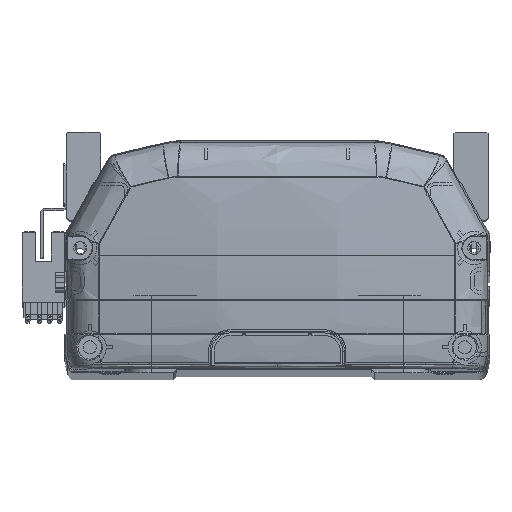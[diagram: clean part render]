
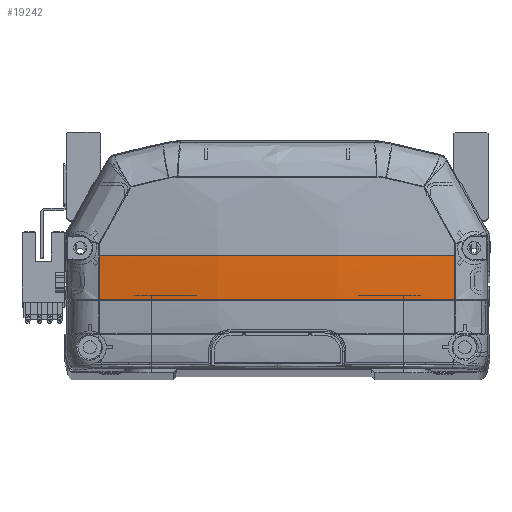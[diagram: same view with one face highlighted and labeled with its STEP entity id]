
A CAD part, top view. The second image highlights one B-rep face of the part: STEP entity #19242.
In plain terms, the highlighted free-form (B-spline) face has degree [3, 3] with [4, 4] control points.
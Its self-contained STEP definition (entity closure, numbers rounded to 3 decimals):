
#96 = CARTESIAN_POINT ( 'NONE',  ( 19.295, 36., -11.535 ) ) ;
#502 = DIRECTION ( 'NONE',  ( 0., 0., -1. ) ) ;
#543 = VERTEX_POINT ( 'NONE', #39598 ) ;
#2409 = AXIS2_PLACEMENT_3D ( 'NONE', #40793, #26597, #22826 ) ;
#2493 = VERTEX_POINT ( 'NONE', #17014 ) ;
#2544 = CARTESIAN_POINT ( 'NONE',  ( 56.661, 22.225, -4.818 ) ) ;
#3341 = CARTESIAN_POINT ( 'NONE',  ( 47.432, 22.225, -6.377 ) ) ;
#3651 = CARTESIAN_POINT ( 'NONE',  ( 19.295, 26.549, -11.419 ) ) ;
#7241 = CARTESIAN_POINT ( 'NONE',  ( 56.661, 22.225, -4.818 ) ) ;
#7395 = CARTESIAN_POINT ( 'NONE',  ( 11.954, 22.225, -9.367 ) ) ;
#7399 = CARTESIAN_POINT ( 'NONE',  ( -19.295, 21.828, -11.186 ) ) ;
#7546 = CARTESIAN_POINT ( 'NONE',  ( 4.761, 22.225, -9.537 ) ) ;
#7550 = CARTESIAN_POINT ( 'NONE',  ( -57.335, 26.762, -4.928 ) ) ;
#8063 = EDGE_CURVE ( 'NONE', #543, #22671, #31457, .T. ) ;
#8841 = CARTESIAN_POINT ( 'NONE',  ( -57.335, 36., -5.042 ) ) ;
#8950 =( BOUNDED_SURFACE ( )  B_SPLINE_SURFACE ( 3, 3, ( 
 ( #15550, #22291, #26379, #33909 ),
 ( #48429, #3651, #29808, #96 ),
 ( #7399, #14916, #18703, #44813 ),
 ( #26214, #7550, #41367, #8841 ) ),
 .UNSPECIFIED., .F., .F., .T. ) 
 B_SPLINE_SURFACE_WITH_KNOTS ( ( 4, 4 ),
 ( 4, 4 ),
 ( 0., 1. ),
 ( 0., 1. ),
 .UNSPECIFIED. ) 
 GEOMETRIC_REPRESENTATION_ITEM ( )  RATIONAL_B_SPLINE_SURFACE ( (
 ( 1., 1., 1., 1.),
 ( 0.99, 0.99, 0.99, 0.99),
 ( 0.99, 0.99, 0.99, 0.99),
 ( 1., 1., 1., 1.) ) ) 
 REPRESENTATION_ITEM ( '' )  SURFACE ( )  );
#10332 = EDGE_CURVE ( 'NONE', #41417, #46457, #18685, .T. ) ;
#10500 = CARTESIAN_POINT ( 'NONE',  ( 23.877, 22.225, -8.763 ) ) ;
#11380 = CARTESIAN_POINT ( 'NONE',  ( 56.647, 36., -5.158 ) ) ;
#12320 = AXIS2_PLACEMENT_3D ( 'NONE', #26797, #30232, #502 ) ;
#14247 = ORIENTED_EDGE ( 'NONE', *, *, #47446, .F. ) ;
#14436 = CARTESIAN_POINT ( 'NONE',  ( -56.661, 22.225, -4.818 ) ) ;
#14916 = CARTESIAN_POINT ( 'NONE',  ( -19.295, 26.549, -11.419 ) ) ;
#15550 = CARTESIAN_POINT ( 'NONE',  ( 57.335, 22.148, -4.7 ) ) ;
#15716 = B_SPLINE_CURVE_WITH_KNOTS ( 'NONE', 3,
 ( #2544, #3341, #18386, #10500, #29490, #7395, #33592, #7546, #25886, #22288, #33270, #18214, #14436 ),
 .UNSPECIFIED., .F., .F.,
 ( 4, 2, 2, 1, 2, 2, 4 ),
 ( 0., 0.25, 0.375, 0.438, 0.469, 0.5, 1. ),
 .UNSPECIFIED. ) ;
#16100 = ORIENTED_EDGE ( 'NONE', *, *, #32959, .F. ) ;
#17014 = CARTESIAN_POINT ( 'NONE',  ( -56.661, 22.225, -4.818 ) ) ;
#17917 = CARTESIAN_POINT ( 'NONE',  ( 56.652, 26.806, -5.044 ) ) ;
#18214 = CARTESIAN_POINT ( 'NONE',  ( -38.235, 22.225, -7.93 ) ) ;
#18386 = CARTESIAN_POINT ( 'NONE',  ( 38.071, 22.225, -7.566 ) ) ;
#18685 = CIRCLE ( 'NONE', #12320, 340.733 ) ;
#18703 = CARTESIAN_POINT ( 'NONE',  ( -19.295, 31.274, -11.535 ) ) ;
#19242 = ADVANCED_FACE ( 'NONE', ( #37970 ), #8950, .T. ) ;
#20765 = CARTESIAN_POINT ( 'NONE',  ( -56.661, 22.225, -4.818 ) ) ;
#22288 = CARTESIAN_POINT ( 'NONE',  ( 1.152, 22.225, -9.568 ) ) ;
#22291 = CARTESIAN_POINT ( 'NONE',  ( 57.335, 26.762, -4.928 ) ) ;
#22671 = VERTEX_POINT ( 'NONE', #47705 ) ;
#22826 = DIRECTION ( 'NONE',  ( -1., 0., 0. ) ) ;
#24366 = CARTESIAN_POINT ( 'NONE',  ( -56.652, 26.814, -5.045 ) ) ;
#25886 = CARTESIAN_POINT ( 'NONE',  ( 2.357, 22.225, -9.562 ) ) ;
#26214 = CARTESIAN_POINT ( 'NONE',  ( -57.335, 22.148, -4.7 ) ) ;
#26379 = CARTESIAN_POINT ( 'NONE',  ( 57.335, 31.38, -5.042 ) ) ;
#26387 = ORIENTED_EDGE ( 'NONE', *, *, #10332, .F. ) ;
#26597 = DIRECTION ( 'NONE',  ( 0., 0., -1. ) ) ;
#26691 = ORIENTED_EDGE ( 'NONE', *, *, #38826, .T. ) ;
#26740 = B_SPLINE_CURVE_WITH_KNOTS ( 'NONE', 3,
 ( #38401, #42141, #24366, #20765 ),
 .UNSPECIFIED., .F., .F.,
 ( 4, 4 ),
 ( 0., 1. ),
 .UNSPECIFIED. ) ;
#26797 = CARTESIAN_POINT ( 'NONE',  ( 0., 36., 330.833 ) ) ;
#26807 = ORIENTED_EDGE ( 'NONE', *, *, #8063, .F. ) ;
#29490 = CARTESIAN_POINT ( 'NONE',  ( 19.121, 22.225, -9.064 ) ) ;
#29755 = EDGE_LOOP ( 'NONE', ( #26387, #14247, #26807, #26691, #16100 ) ) ;
#29808 = CARTESIAN_POINT ( 'NONE',  ( 19.295, 31.274, -11.535 ) ) ;
#30232 = DIRECTION ( 'NONE',  ( 0., 1., 0. ) ) ;
#31457 = B_SPLINE_CURVE_WITH_KNOTS ( 'NONE', 3,
 ( #7241, #17917, #48109, #44488 ),
 .UNSPECIFIED., .F., .F.,
 ( 4, 4 ),
 ( 0., 1. ),
 .UNSPECIFIED. ) ;
#32959 = EDGE_CURVE ( 'NONE', #46457, #2493, #26740, .T. ) ;
#32999 = CIRCLE ( 'NONE', #2409, 6395.966 ) ;
#33270 = CARTESIAN_POINT ( 'NONE',  ( -19.28, 22.225, -9.565 ) ) ;
#33592 = CARTESIAN_POINT ( 'NONE',  ( 8.363, 22.225, -9.48 ) ) ;
#33909 = CARTESIAN_POINT ( 'NONE',  ( 57.335, 36., -5.042 ) ) ;
#37970 = FACE_OUTER_BOUND ( 'NONE', #29755, .T. ) ;
#38401 = CARTESIAN_POINT ( 'NONE',  ( -56.647, 36., -5.158 ) ) ;
#38826 = EDGE_CURVE ( 'NONE', #543, #2493, #15716, .T. ) ;
#39598 = CARTESIAN_POINT ( 'NONE',  ( 56.661, 22.225, -4.818 ) ) ;
#40793 = CARTESIAN_POINT ( 'NONE',  ( 6452.613, 35.969, -5.158 ) ) ;
#41367 = CARTESIAN_POINT ( 'NONE',  ( -57.335, 31.38, -5.042 ) ) ;
#41417 = VERTEX_POINT ( 'NONE', #11380 ) ;
#42141 = CARTESIAN_POINT ( 'NONE',  ( -56.647, 31.405, -5.158 ) ) ;
#44488 = CARTESIAN_POINT ( 'NONE',  ( 56.647, 35.969, -5.158 ) ) ;
#44813 = CARTESIAN_POINT ( 'NONE',  ( -19.295, 36., -11.535 ) ) ;
#44868 = CARTESIAN_POINT ( 'NONE',  ( -56.647, 36., -5.158 ) ) ;
#46457 = VERTEX_POINT ( 'NONE', #44868 ) ;
#47446 = EDGE_CURVE ( 'NONE', #22671, #41417, #32999, .T. ) ;
#47705 = CARTESIAN_POINT ( 'NONE',  ( 56.647, 35.969, -5.158 ) ) ;
#48109 = CARTESIAN_POINT ( 'NONE',  ( 56.647, 31.387, -5.158 ) ) ;
#48429 = CARTESIAN_POINT ( 'NONE',  ( 19.295, 21.828, -11.186 ) ) ;
